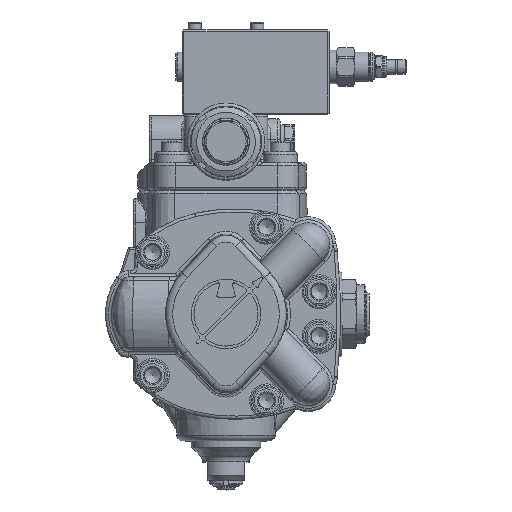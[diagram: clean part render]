
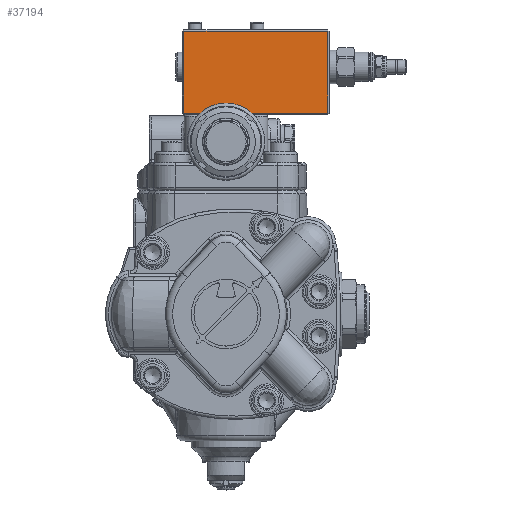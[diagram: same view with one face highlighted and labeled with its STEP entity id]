
A CAD part, top view. The second image highlights one B-rep face of the part: STEP entity #37194.
In plain terms, the highlighted planar face has unit normal (0, 0, 1).
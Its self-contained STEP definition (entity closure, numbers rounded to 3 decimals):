
#1215=PLANE('',#39655);
#2350=FACE_OUTER_BOUND('',#4558,.T.);
#4558=EDGE_LOOP('',(#24236,#24237,#24238,#24239));
#9904=LINE('',#54831,#12053);
#9906=LINE('',#54835,#12055);
#9909=LINE('',#54839,#12058);
#9915=LINE('',#54850,#12064);
#12053=VECTOR('',#44249,10.);
#12055=VECTOR('',#44255,10.);
#12058=VECTOR('',#44260,10.);
#12064=VECTOR('',#44276,10.);
#14397=VERTEX_POINT('',#54803);
#14398=VERTEX_POINT('',#54807);
#14403=VERTEX_POINT('',#54821);
#14405=VERTEX_POINT('',#54826);
#18094=EDGE_CURVE('',#14405,#14403,#9904,.T.);
#18096=EDGE_CURVE('',#14398,#14405,#9906,.T.);
#18099=EDGE_CURVE('',#14403,#14397,#9909,.T.);
#18105=EDGE_CURVE('',#14397,#14398,#9915,.T.);
#24236=ORIENTED_EDGE('',*,*,#18094,.F.);
#24237=ORIENTED_EDGE('',*,*,#18096,.F.);
#24238=ORIENTED_EDGE('',*,*,#18105,.F.);
#24239=ORIENTED_EDGE('',*,*,#18099,.F.);
#37194=ADVANCED_FACE('',(#2350),#1215,.T.);
#39655=AXIS2_PLACEMENT_3D('',#54864,#44293,#44294);
#44249=DIRECTION('',(1.,0.,0.));
#44255=DIRECTION('',(0.,1.,0.));
#44260=DIRECTION('',(0.,-1.,0.));
#44276=DIRECTION('',(-1.,0.,0.));
#44293=DIRECTION('center_axis',(0.,0.,
1.));
#44294=DIRECTION('ref_axis',(0.,1.,0.));
#54803=CARTESIAN_POINT('',(194.297,120.193,74.283));
#54807=CARTESIAN_POINT('',(101.297,120.193,74.283));
#54821=CARTESIAN_POINT('',(194.297,173.193,74.283));
#54826=CARTESIAN_POINT('',(101.297,173.193,74.283));
#54831=CARTESIAN_POINT('',(124.047,173.193,74.283));
#54835=CARTESIAN_POINT('',(101.297,174.193,74.283));
#54839=CARTESIAN_POINT('',(194.297,174.193,74.283));
#54850=CARTESIAN_POINT('',(124.047,120.193,74.283));
#54864=CARTESIAN_POINT('Origin',(100.297,174.193,74.283));
